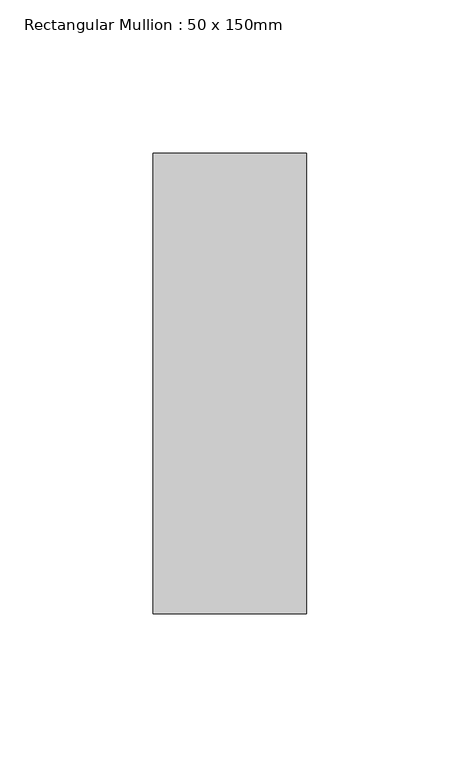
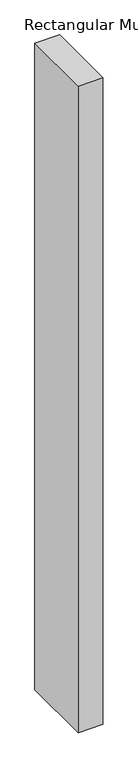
"""IFC4 building model written with IfcOpenShell, lengths in millimetres: member geometry, Rectangular Mullion : 50 x 150mm."""

from ifc_helpers import new_model, si_unit, frame, origin, place, context, project, spatial, polyline, outline, extrude, source, transform, mapped, element, save


def rectangular_mullion_50_x_150mm_edf85684(model_context):
    return source(origin(), model_context, "Body", "SweptSolid", [
        extrude(outline(polyline([(25.0, 75.0), (25.0, -75.0), (-25.0, -75.0), (-25.0, 75.0), (25.0, 75.0)])), frame((0.0, 0.0, -1372.3999998), z_axis=(0.0, 0.0, 1.0), x_axis=(1.0, 0.0, 0.0)), (0.0, 0.0, 1.0), 1372.3999998),
    ])


if __name__ == "__main__":
    model = new_model("IFC4")
    model_context = context("Model", 3, world=origin())
    ifc_project = project(units=[si_unit("LENGTHUNIT", "METRE", prefix="MILLI")], contexts=[model_context])
    site = spatial("IfcSite", under=ifc_project)
    building = spatial("IfcBuilding", under=site)
    placement = place(None, origin())
    rectangular_mullion_50_x_150mm_shape = rectangular_mullion_50_x_150mm_edf85684(model_context)
    element("IfcMember", 1, ObjectType="Rectangular Mullion : 50 x 150mm", at=placement, inside=building, context=model_context, shape_type="MappedRepresentation", body=[
        mapped(rectangular_mullion_50_x_150mm_shape, transform((0.0, 0.0, 0.0), x_axis=(1.0, 0.0, 0.0), y_axis=(0.0, 1.0, 0.0), z_axis=(0.0, 0.0, 1.0))),
    ])
    save(model, "model.ifc")
